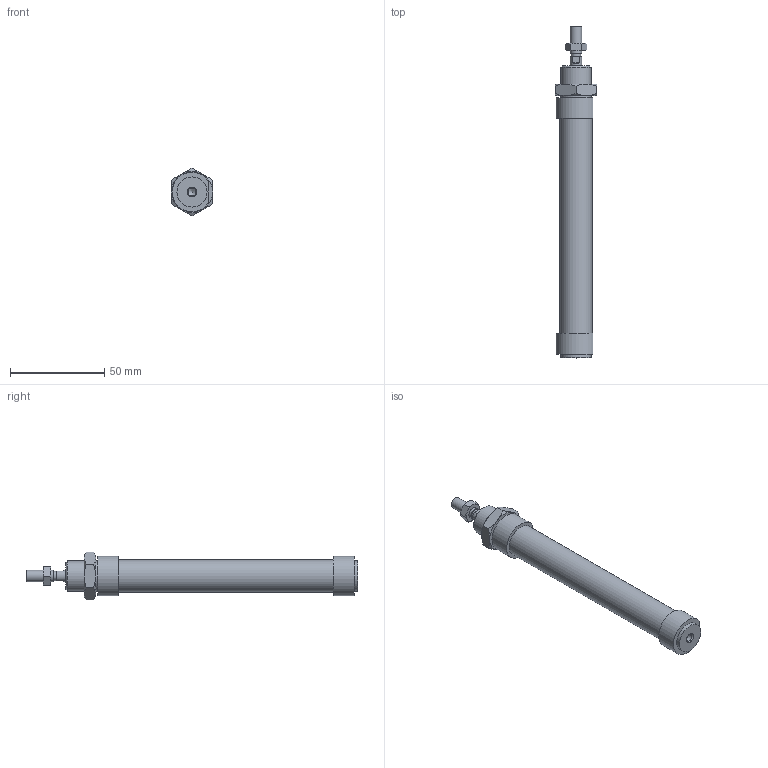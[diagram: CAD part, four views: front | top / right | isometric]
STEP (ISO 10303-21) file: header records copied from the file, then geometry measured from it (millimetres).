
FILE_DESCRIPTION((''),'2;1');
FILE_NAME('I:\Area Tecnica\Disegni\VARIE-3D\Componenti\1280\1281_##_####_#\1281_16_0080.iam.stp','2009-06-04T09:38:34',(''),(''),'Autodesk Inventor 2010','Autodesk Inventor 2010','');
FILE_SCHEMA(('AUTOMOTIVE_DESIGN { 1 0 10303 214 1 1 1 1 }'));
Length unit declared in the file: millimetre
Products named in the file (5): 1281_16_0080; C1281_16_80; S1280_16_80; 1200_16_05; 1200_16_06
Assembly tree (4 placements, depth 2):
  1281_16_0080
    C1281_16_80
    S1280_16_80
    1200_16_05
    1200_16_06
Bounding box: 22 x 176 x 25.4 mm (x, y, z)
Volume: 39741.1 mm3; surface area: 15608.6 mm2
Topology: 4 solids, 4 shells, 83 faces, 169 edges, 102 vertices
Faces by surface type: plane 34, cone 26, bspline 14, cylinder 9
Full cylindrical faces by diameter (mm): 5 x1, 6 x3, 16 x2, 17.2 x1
Entity records: 2370 total; most frequent: CARTESIAN_POINT 636, DIRECTION 314, ORIENTED_EDGE 284, AXIS2_PLACEMENT_3D 142, EDGE_CURVE 142, EDGE_LOOP 116, VERTEX_POINT 96, STYLED_ITEM 87
